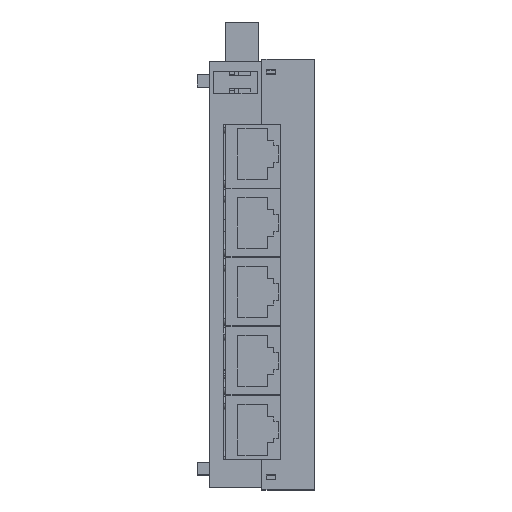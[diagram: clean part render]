
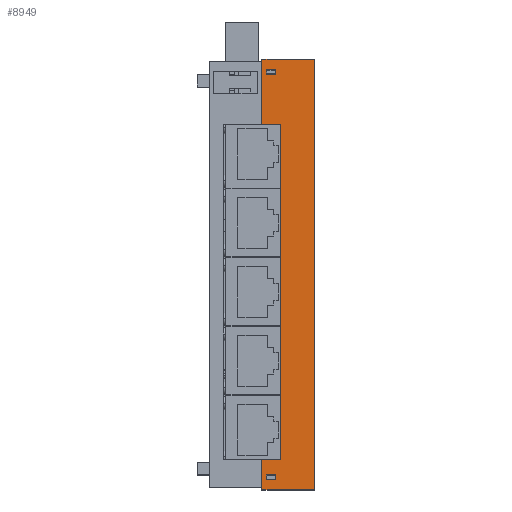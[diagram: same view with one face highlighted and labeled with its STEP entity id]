
A CAD part, top view. The second image highlights one B-rep face of the part: STEP entity #8949.
In plain terms, the highlighted planar face has unit normal (0, 0, 1) as drawn and (1, 0, 0) by its records, which use the part's own axes.
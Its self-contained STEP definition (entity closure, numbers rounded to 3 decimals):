
#143 = VECTOR ( 'NONE', #15506, 1000. ) ;
#779 = VERTEX_POINT ( 'NONE', #4043 ) ;
#804 = VECTOR ( 'NONE', #17872, 1000. ) ;
#858 = LINE ( 'NONE', #22214, #143 ) ;
#877 = DIRECTION ( 'NONE',  ( 0., 0., -1. ) ) ;
#1184 = CARTESIAN_POINT ( 'NONE',  ( 58.397, 44.801, -12.54 ) ) ;
#1206 = CARTESIAN_POINT ( 'NONE',  ( 58.397, -47.248, -11.5 ) ) ;
#1461 = DIRECTION ( 'NONE',  ( 0., 1., 0. ) ) ;
#1676 = VERTEX_POINT ( 'NONE', #22785 ) ;
#2331 = CARTESIAN_POINT ( 'NONE',  ( 58.397, 43.801, -12.54 ) ) ;
#2452 = CARTESIAN_POINT ( 'NONE',  ( 58.397, -50.946, -12.54 ) ) ;
#2458 = CARTESIAN_POINT ( 'NONE',  ( 58.397, -51.946, -14.76 ) ) ;
#3080 = CARTESIAN_POINT ( 'NONE',  ( 58.397, 43.854, -12.54 ) ) ;
#3143 = VECTOR ( 'NONE', #16789, 1000. ) ;
#3543 = VECTOR ( 'NONE', #20872, 1000. ) ;
#3605 = EDGE_CURVE ( 'NONE', #18375, #3627, #23569, .T. ) ;
#3627 = VERTEX_POINT ( 'NONE', #9358 ) ;
#4031 = CARTESIAN_POINT ( 'NONE',  ( 58.397, -50.946, 0. ) ) ;
#4043 = CARTESIAN_POINT ( 'NONE',  ( 58.397, -51.946, -12.54 ) ) ;
#4345 = EDGE_LOOP ( 'NONE', ( #18747, #13444, #16246, #27422, #24267, #7445, #19485, #13995 ) ) ;
#4473 = CARTESIAN_POINT ( 'NONE',  ( 58.397, 31.902, -11.5 ) ) ;
#4645 = FACE_OUTER_BOUND ( 'NONE', #4345, .T. ) ;
#4681 = EDGE_CURVE ( 'NONE', #20934, #779, #15482, .T. ) ;
#4804 = CARTESIAN_POINT ( 'NONE',  ( 58.397, 46.827, -24. ) ) ;
#5203 = CARTESIAN_POINT ( 'NONE',  ( 58.397, -54.473, -11.5 ) ) ;
#5232 = VECTOR ( 'NONE', #28784, 1000. ) ;
#5683 = VERTEX_POINT ( 'NONE', #9186 ) ;
#6103 = CARTESIAN_POINT ( 'NONE',  ( 58.397, 31.902, -16. ) ) ;
#6299 = DIRECTION ( 'NONE',  ( 0., 0., -1. ) ) ;
#6699 = VECTOR ( 'NONE', #23888, 1000. ) ;
#7072 = DIRECTION ( 'NONE',  ( 0., -1., 0. ) ) ;
#7363 = CARTESIAN_POINT ( 'NONE',  ( 58.397, 47.327, 0.758 ) ) ;
#7445 = ORIENTED_EDGE ( 'NONE', *, *, #28094, .T. ) ;
#7524 = CARTESIAN_POINT ( 'NONE',  ( 58.397, -54.473, 0.758 ) ) ;
#7624 = EDGE_CURVE ( 'NONE', #27177, #22252, #858, .T. ) ;
#7795 = VERTEX_POINT ( 'NONE', #1184 ) ;
#8020 = VERTEX_POINT ( 'NONE', #2452 ) ;
#8415 = LINE ( 'NONE', #7524, #19697 ) ;
#8804 = VECTOR ( 'NONE', #28423, 1000. ) ;
#8844 = ORIENTED_EDGE ( 'NONE', *, *, #7624, .T. ) ;
#8949 = ADVANCED_FACE ( 'NONE', ( #22657, #15934, #4645 ), #19244, .F. ) ;
#9133 = LINE ( 'NONE', #14968, #15117 ) ;
#9186 = CARTESIAN_POINT ( 'NONE',  ( 58.397, -50.946, -14.76 ) ) ;
#9358 = CARTESIAN_POINT ( 'NONE',  ( 58.397, -54.473, -24. ) ) ;
#9800 = DIRECTION ( 'NONE',  ( 0., 0., -1. ) ) ;
#9950 = EDGE_CURVE ( 'NONE', #5683, #20934, #26792, .T. ) ;
#10264 = CARTESIAN_POINT ( 'NONE',  ( 58.397, 43.727, -2. ) ) ;
#10778 = VECTOR ( 'NONE', #15720, 1000. ) ;
#10943 = VECTOR ( 'NONE', #18835, 1000. ) ;
#11041 = DIRECTION ( 'NONE',  ( 0., 1., 0. ) ) ;
#11597 = CARTESIAN_POINT ( 'NONE',  ( 58.397, -47.248, -16. ) ) ;
#11664 = VERTEX_POINT ( 'NONE', #5203 ) ;
#12511 = VERTEX_POINT ( 'NONE', #13795 ) ;
#12534 = DIRECTION ( 'NONE',  ( 0., 0., 1. ) ) ;
#12776 = LINE ( 'NONE', #15605, #804 ) ;
#12964 = VECTOR ( 'NONE', #6299, 1000. ) ;
#13188 = CARTESIAN_POINT ( 'NONE',  ( 58.397, 43.801, -14.76 ) ) ;
#13444 = ORIENTED_EDGE ( 'NONE', *, *, #14329, .F. ) ;
#13676 = VECTOR ( 'NONE', #877, 1000. ) ;
#13789 = ORIENTED_EDGE ( 'NONE', *, *, #4681, .T. ) ;
#13795 = CARTESIAN_POINT ( 'NONE',  ( 58.397, 31.902, -11.5 ) ) ;
#13995 = ORIENTED_EDGE ( 'NONE', *, *, #27426, .F. ) ;
#14329 = EDGE_CURVE ( 'NONE', #25938, #12511, #16802, .T. ) ;
#14774 = VECTOR ( 'NONE', #14837, 1000. ) ;
#14826 = CARTESIAN_POINT ( 'NONE',  ( 58.397, 43.854, -14.76 ) ) ;
#14837 = DIRECTION ( 'NONE',  ( 0., 0., 1. ) ) ;
#14968 = CARTESIAN_POINT ( 'NONE',  ( 58.397, 44.827, -11.5 ) ) ;
#15114 = LINE ( 'NONE', #21317, #3143 ) ;
#15117 = VECTOR ( 'NONE', #1461, 1000. ) ;
#15482 = LINE ( 'NONE', #26066, #14774 ) ;
#15506 = DIRECTION ( 'NONE',  ( 0., 0., 1. ) ) ;
#15605 = CARTESIAN_POINT ( 'NONE',  ( 58.397, 44.801, -14.707 ) ) ;
#15676 = EDGE_LOOP ( 'NONE', ( #17896, #23898, #13789, #29038 ) ) ;
#15720 = DIRECTION ( 'NONE',  ( 0., 0., 1. ) ) ;
#15827 = EDGE_CURVE ( 'NONE', #7795, #23231, #12776, .T. ) ;
#15934 = FACE_BOUND ( 'NONE', #15676, .T. ) ;
#16246 = ORIENTED_EDGE ( 'NONE', *, *, #26996, .F. ) ;
#16789 = DIRECTION ( 'NONE',  ( 0., 1., 0. ) ) ;
#16802 = LINE ( 'NONE', #4473, #10778 ) ;
#16876 = VECTOR ( 'NONE', #7072, 1000. ) ;
#17322 = VECTOR ( 'NONE', #11041, 1000. ) ;
#17449 = ORIENTED_EDGE ( 'NONE', *, *, #20019, .T. ) ;
#17872 = DIRECTION ( 'NONE',  ( 0., 0., -1. ) ) ;
#17896 = ORIENTED_EDGE ( 'NONE', *, *, #27139, .T. ) ;
#18035 = LINE ( 'NONE', #26822, #17322 ) ;
#18375 = VERTEX_POINT ( 'NONE', #20892 ) ;
#18672 = LINE ( 'NONE', #14826, #6699 ) ;
#18701 = VERTEX_POINT ( 'NONE', #21416 ) ;
#18747 = ORIENTED_EDGE ( 'NONE', *, *, #24642, .F. ) ;
#18814 = ORIENTED_EDGE ( 'NONE', *, *, #24916, .T. ) ;
#18835 = DIRECTION ( 'NONE',  ( 0., 1., 0. ) ) ;
#19244 = PLANE ( 'NONE',  #19325 ) ;
#19325 = AXIS2_PLACEMENT_3D ( 'NONE', #10264, #26040, #12534 ) ;
#19485 = ORIENTED_EDGE ( 'NONE', *, *, #3605, .F. ) ;
#19697 = VECTOR ( 'NONE', #9800, 1000. ) ;
#20019 = EDGE_CURVE ( 'NONE', #23231, #27177, #18672, .T. ) ;
#20544 = EDGE_CURVE ( 'NONE', #779, #8020, #15114, .T. ) ;
#20554 = CARTESIAN_POINT ( 'NONE',  ( 58.397, 31.902, -16. ) ) ;
#20817 = LINE ( 'NONE', #7363, #3543 ) ;
#20872 = DIRECTION ( 'NONE',  ( 0., 0., -1. ) ) ;
#20892 = CARTESIAN_POINT ( 'NONE',  ( 58.397, 47.327, -24. ) ) ;
#20934 = VERTEX_POINT ( 'NONE', #2458 ) ;
#21011 = EDGE_CURVE ( 'NONE', #26859, #1676, #25667, .T. ) ;
#21156 = EDGE_CURVE ( 'NONE', #11664, #26859, #9133, .T. ) ;
#21317 = CARTESIAN_POINT ( 'NONE',  ( 58.397, 0., -12.54 ) ) ;
#21416 = CARTESIAN_POINT ( 'NONE',  ( 58.397, 47.327, -11.5 ) ) ;
#21540 = LINE ( 'NONE', #3080, #10943 ) ;
#22214 = CARTESIAN_POINT ( 'NONE',  ( 58.397, 43.801, -14.707 ) ) ;
#22252 = VERTEX_POINT ( 'NONE', #2331 ) ;
#22657 = FACE_BOUND ( 'NONE', #24677, .T. ) ;
#22785 = CARTESIAN_POINT ( 'NONE',  ( 58.397, -47.248, -16. ) ) ;
#23223 = LINE ( 'NONE', #6103, #5232 ) ;
#23231 = VERTEX_POINT ( 'NONE', #24042 ) ;
#23569 = LINE ( 'NONE', #4804, #16876 ) ;
#23888 = DIRECTION ( 'NONE',  ( 0., -1., 0. ) ) ;
#23898 = ORIENTED_EDGE ( 'NONE', *, *, #9950, .T. ) ;
#24042 = CARTESIAN_POINT ( 'NONE',  ( 58.397, 44.801, -14.76 ) ) ;
#24267 = ORIENTED_EDGE ( 'NONE', *, *, #21156, .F. ) ;
#24642 = EDGE_CURVE ( 'NONE', #12511, #18701, #18035, .T. ) ;
#24677 = EDGE_LOOP ( 'NONE', ( #25093, #17449, #8844, #18814 ) ) ;
#24916 = EDGE_CURVE ( 'NONE', #22252, #7795, #21540, .T. ) ;
#24975 = LINE ( 'NONE', #4031, #12964 ) ;
#25093 = ORIENTED_EDGE ( 'NONE', *, *, #15827, .T. ) ;
#25667 = LINE ( 'NONE', #11597, #13676 ) ;
#25938 = VERTEX_POINT ( 'NONE', #20554 ) ;
#26040 = DIRECTION ( 'NONE',  ( -1., 0., 0. ) ) ;
#26066 = CARTESIAN_POINT ( 'NONE',  ( 58.397, -51.946, 0. ) ) ;
#26139 = CARTESIAN_POINT ( 'NONE',  ( 58.397, 0., -14.76 ) ) ;
#26792 = LINE ( 'NONE', #26139, #8804 ) ;
#26822 = CARTESIAN_POINT ( 'NONE',  ( 58.397, 44.827, -11.5 ) ) ;
#26859 = VERTEX_POINT ( 'NONE', #1206 ) ;
#26996 = EDGE_CURVE ( 'NONE', #1676, #25938, #23223, .T. ) ;
#27139 = EDGE_CURVE ( 'NONE', #8020, #5683, #24975, .T. ) ;
#27177 = VERTEX_POINT ( 'NONE', #13188 ) ;
#27422 = ORIENTED_EDGE ( 'NONE', *, *, #21011, .F. ) ;
#27426 = EDGE_CURVE ( 'NONE', #18701, #18375, #20817, .T. ) ;
#28094 = EDGE_CURVE ( 'NONE', #11664, #3627, #8415, .T. ) ;
#28423 = DIRECTION ( 'NONE',  ( 0., -1., 0. ) ) ;
#28784 = DIRECTION ( 'NONE',  ( 0., 1., 0. ) ) ;
#29038 = ORIENTED_EDGE ( 'NONE', *, *, #20544, .T. ) ;
